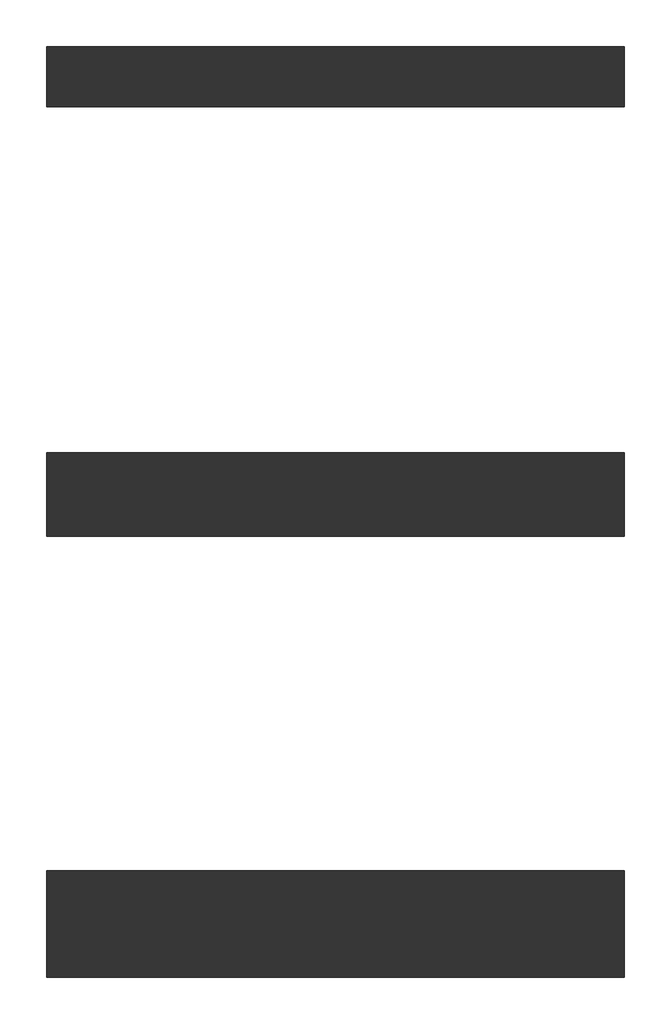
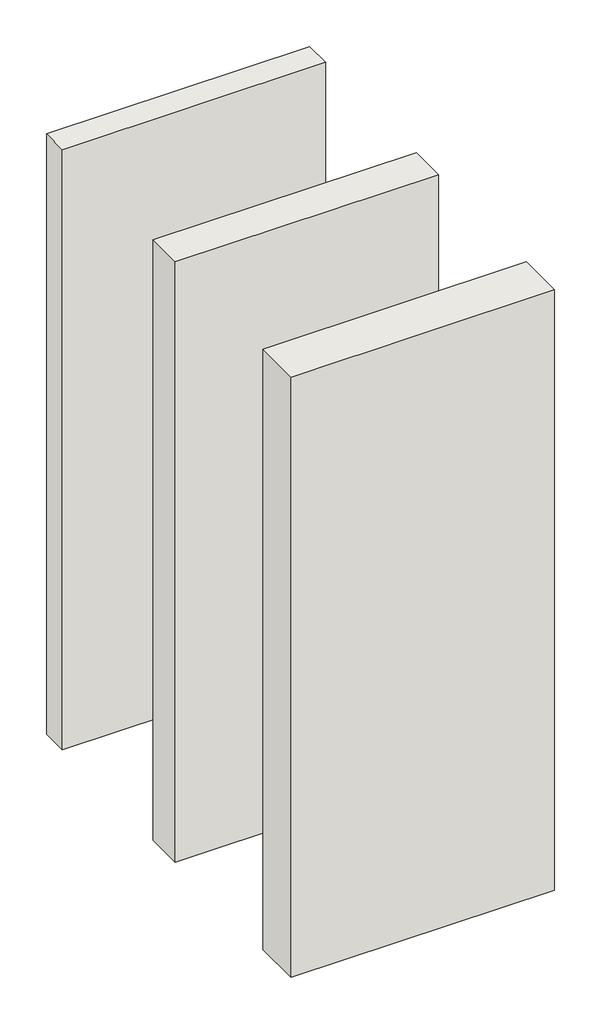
# One storey: 3 walls.
"""IFC4 building model written with IfcOpenShell, lengths in millimetres."""

from ifc_helpers import new_model, si_unit, origin, origin_with_axes, place, context, project, spatial, polyline, outline, extrude, element, save

model = new_model("IFC4")

# Units and contexts
model_context = context("Model", 3, world=origin())
ifc_project = project(units=[si_unit("LENGTHUNIT", "METRE", prefix="MILLI")], contexts=[model_context])

# Site, building, storey
site = spatial("IfcSite", under=ifc_project)
building = spatial("IfcBuilding", under=site)
storey = spatial("IfcBuildingStorey", under=building, Name="Уровень 1", Elevation=0.0)

# Walls
placement = place(None, origin())
element("IfcWall", 1, ObjectType="Перегородка-КНАУФ-С385.1-Применение внутри здания-130/50@600 (Аквапанель)  12,5", at=placement, inside=storey, context=model_context, shape_type="SweptSolid", body=[
    extrude(outline(polyline([(-9315.7236634, 13454.2035262), (-10560.2640717, 13454.2035262), (-10560.2640717, 13584.2035262), (-9315.7236634, 13584.2035262), (-9315.7236634, 13454.2035262)])), origin_with_axes(), (0.0, 0.0, 1.0), 3000.0),
])
element("IfcWall", 2, ObjectType="Перегородка-КНАУФ-С385.1-Применение внутри здания-180/75@600 (Аквапанель)  12,5", at=placement, inside=storey, context=model_context, shape_type="SweptSolid", body=[
    extrude(outline(polyline([(-9315.7236634, 12529.2035262), (-10560.2640717, 12529.2035262), (-10560.2640717, 12709.2035262), (-9315.7236634, 12709.2035262), (-9315.7236634, 12529.2035262)])), origin_with_axes(), (0.0, 0.0, 1.0), 3000.0),
])
element("IfcWall", 3, ObjectType="Перегородка-КНАУФ-С385.1-Применение внутри здания-230/100@600 (Аквапанель)  12,5", at=placement, inside=storey, context=model_context, shape_type="SweptSolid", body=[
    extrude(outline(polyline([(-9315.7236634, 11579.2035262), (-10560.2640717, 11579.2035262), (-10560.2640717, 11809.2035262), (-9315.7236634, 11809.2035262), (-9315.7236634, 11579.2035262)])), origin_with_axes(), (0.0, 0.0, 1.0), 3000.0),
])

save(model, "model.ifc")
